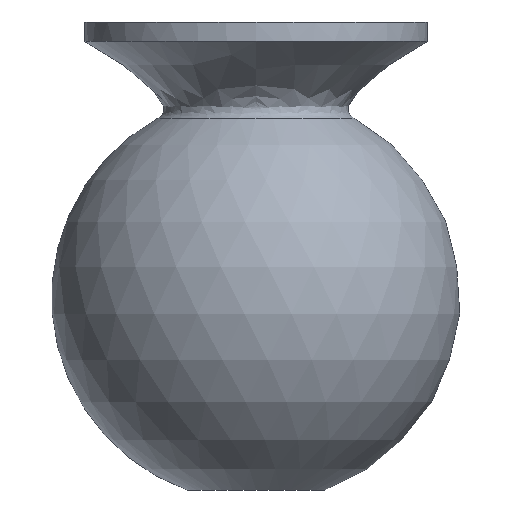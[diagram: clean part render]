
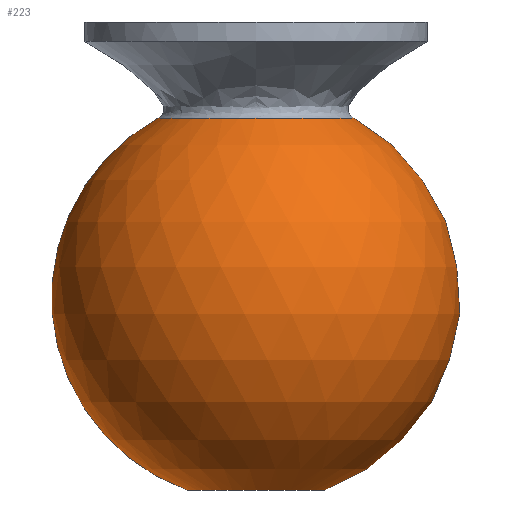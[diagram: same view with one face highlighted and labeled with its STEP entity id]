
A CAD part, front view. The second image highlights one B-rep face of the part: STEP entity #223.
In plain terms, the highlighted spherical face has radius 8.9 mm.
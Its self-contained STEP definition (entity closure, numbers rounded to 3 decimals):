
#24 = VERTEX_POINT('',#25);
#25 = CARTESIAN_POINT('',(0.,-4.275,7.806));
#41 = EDGE_CURVE('',#24,#42,#44,.T.);
#42 = VERTEX_POINT('',#43);
#43 = CARTESIAN_POINT('',(-4.275,0.,7.806));
#44 = CIRCLE('',#45,4.275);
#45 = AXIS2_PLACEMENT_3D('',#46,#47,#48);
#46 = CARTESIAN_POINT('',(0.,0.,7.806));
#47 = DIRECTION('',(-0.,0.,1.));
#48 = DIRECTION('',(1.,0.,0.));
#50 = EDGE_CURVE('',#42,#24,#51,.T.);
#51 = CIRCLE('',#52,4.275);
#52 = AXIS2_PLACEMENT_3D('',#53,#54,#55);
#53 = CARTESIAN_POINT('',(0.,0.,7.806));
#54 = DIRECTION('',(-0.,0.,1.));
#55 = DIRECTION('',(1.,0.,0.));
#223 = ADVANCED_FACE('',(#224),#254,.T.);
#224 = FACE_BOUND('',#225,.T.);
#225 = EDGE_LOOP('',(#226,#227,#228,#237,#246,#253));
#226 = ORIENTED_EDGE('',*,*,#41,.F.);
#227 = ORIENTED_EDGE('',*,*,#50,.F.);
#228 = ORIENTED_EDGE('',*,*,#229,.T.);
#229 = EDGE_CURVE('',#42,#230,#232,.T.);
#230 = VERTEX_POINT('',#231);
#231 = CARTESIAN_POINT('',(-3.,-0.,-8.379));
#232 = CIRCLE('',#233,8.9);
#233 = AXIS2_PLACEMENT_3D('',#234,#235,#236);
#234 = CARTESIAN_POINT('',(0.,0.,0.));
#235 = DIRECTION('',(0.,-1.,0.));
#236 = DIRECTION('',(-1.,0.,0.));
#237 = ORIENTED_EDGE('',*,*,#238,.F.);
#238 = EDGE_CURVE('',#239,#230,#241,.T.);
#239 = VERTEX_POINT('',#240);
#240 = CARTESIAN_POINT('',(0.,-3.,-8.379));
#241 = CIRCLE('',#242,3.);
#242 = AXIS2_PLACEMENT_3D('',#243,#244,#245);
#243 = CARTESIAN_POINT('',(-0.,0.,-8.379));
#244 = DIRECTION('',(0.,0.,-1.));
#245 = DIRECTION('',(0.,1.,0.));
#246 = ORIENTED_EDGE('',*,*,#247,.F.);
#247 = EDGE_CURVE('',#230,#239,#248,.T.);
#248 = CIRCLE('',#249,3.);
#249 = AXIS2_PLACEMENT_3D('',#250,#251,#252);
#250 = CARTESIAN_POINT('',(-0.,0.,-8.379));
#251 = DIRECTION('',(0.,0.,-1.));
#252 = DIRECTION('',(0.,1.,0.));
#253 = ORIENTED_EDGE('',*,*,#229,.F.);
#254 = SPHERICAL_SURFACE('',#255,8.9);
#255 = AXIS2_PLACEMENT_3D('',#256,#257,#258);
#256 = CARTESIAN_POINT('',(0.,0.,0.));
#257 = DIRECTION('',(0.,0.,1.));
#258 = DIRECTION('',(1.,0.,0.));
